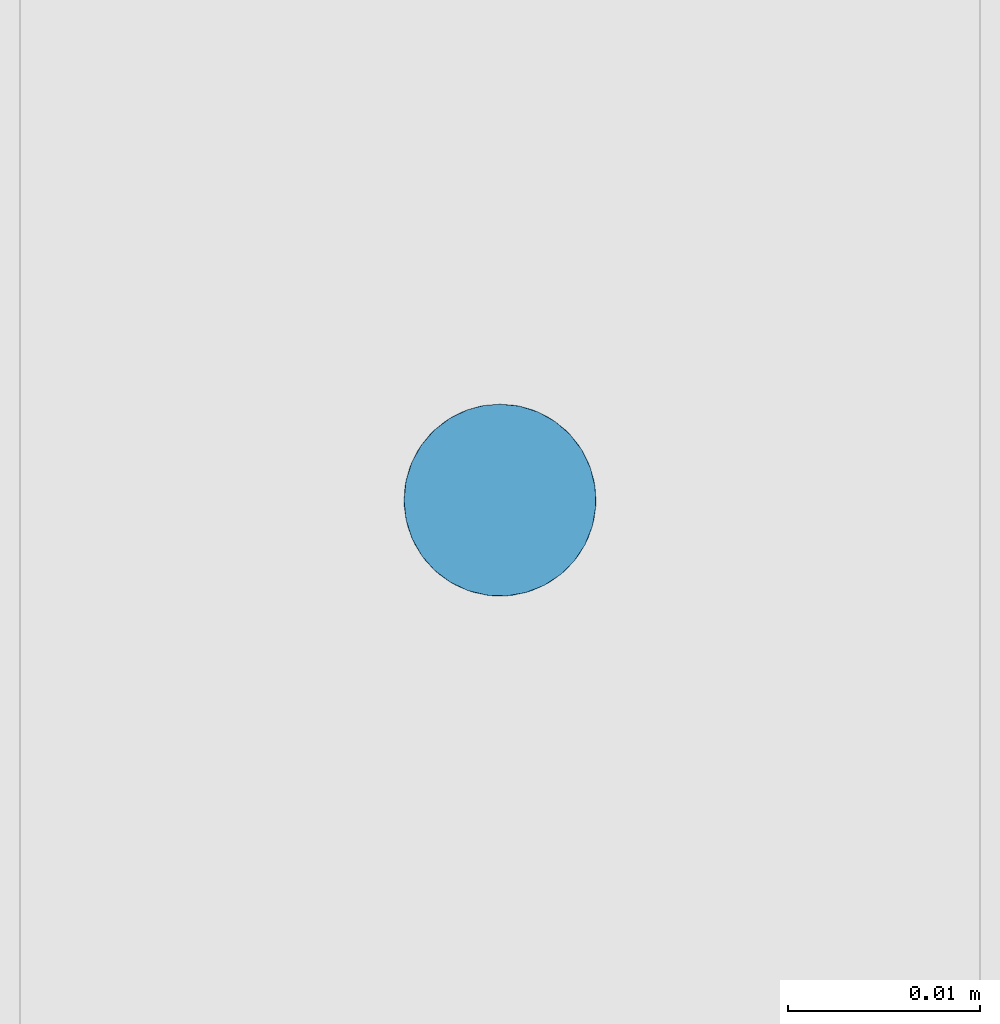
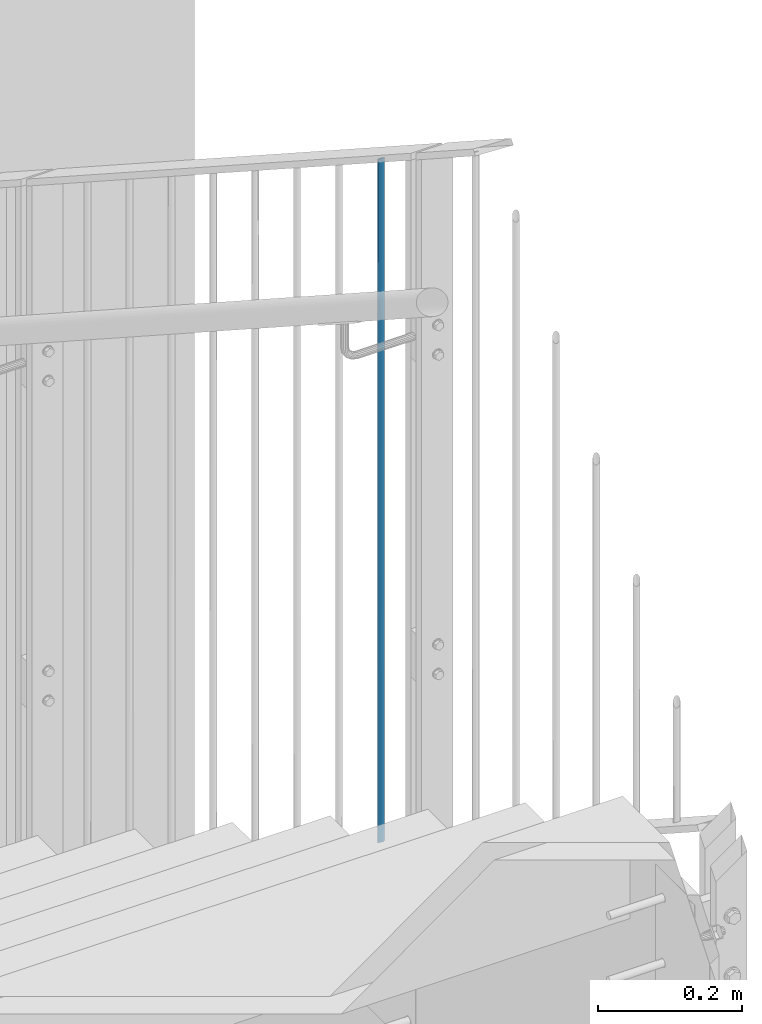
# One storey, part 43 of 296: 1 column.
"""IFC2X3 building model written with IfcOpenShell, lengths in millimetres."""

from ifc_helpers import new_model, entity, si_unit, converted_unit, frame, origin, origin_with_axes, origin_2d, place, context, project, spatial, circle, extrude, clip, halfspace, material, element, save


model = new_model("IFC2X3")

# Units and contexts
model_context = context("Model", 3, precision=1e-09, world=origin_with_axes())
ifc_project = project(units=[si_unit("LENGTHUNIT", "METRE", prefix="MILLI"), si_unit("AREAUNIT", "SQUARE_METRE"), si_unit("VOLUMEUNIT", "CUBIC_METRE"), converted_unit("PLANEANGLEUNIT", "DEGREE", entity("IfcPlaneAngleMeasure", 0.01745329), si_unit("PLANEANGLEUNIT", "RADIAN"), dimensions=[0, 0, 0, 0, 0, 0, 0])], contexts=[model_context])

# Site, building, storey
site_placement = place(None, origin_with_axes())
site = spatial("IfcSite", under=ifc_project, at=site_placement, Name="TZD-S?d | Treppenhausgel?nder", CompositionType="ELEMENT")
building_placement = place(site_placement, origin_with_axes())
building = spatial("IfcBuilding", under=site, at=building_placement, Name="Struktur 1", CompositionType="ELEMENT")
storey_placement = place(building_placement, origin_with_axes())
storey = spatial("IfcBuildingStorey", under=building, at=storey_placement, Name="Default Storey", CompositionType="ELEMENT", Elevation=0.0)

# Column
ifc_material = material(Name="S235JR")
column_placement = place(None, frame((5894.999, -1386.3888889, 12710.568725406), z_axis=(0.0, 0.0, -1.0), x_axis=(0.0, 1.0, 0.0)))
element("IfcColumn", 1, at=column_placement, inside=storey, material=ifc_material, Name="-", ObjectType="-", context=model_context, shape_type="Clipping", body=[
    clip(clip(extrude(circle(Radius=5.0, at=origin_2d()), origin(), (0.0, 0.0, -1.0), 1184.934501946), halfspace(frame((7309.575891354, -5894.999, 3561.976781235), z_axis=(-0.543478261, 0.0, 0.839423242), x_axis=(0.0, 1.0, 0.0)), True)), halfspace(frame((6782.120768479, -5894.999, 4376.651665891), z_axis=(0.543478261, 0.0, -0.839423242), x_axis=(0.0, -1.0, 0.0)), True)),
])

save(model, "model.ifc")
